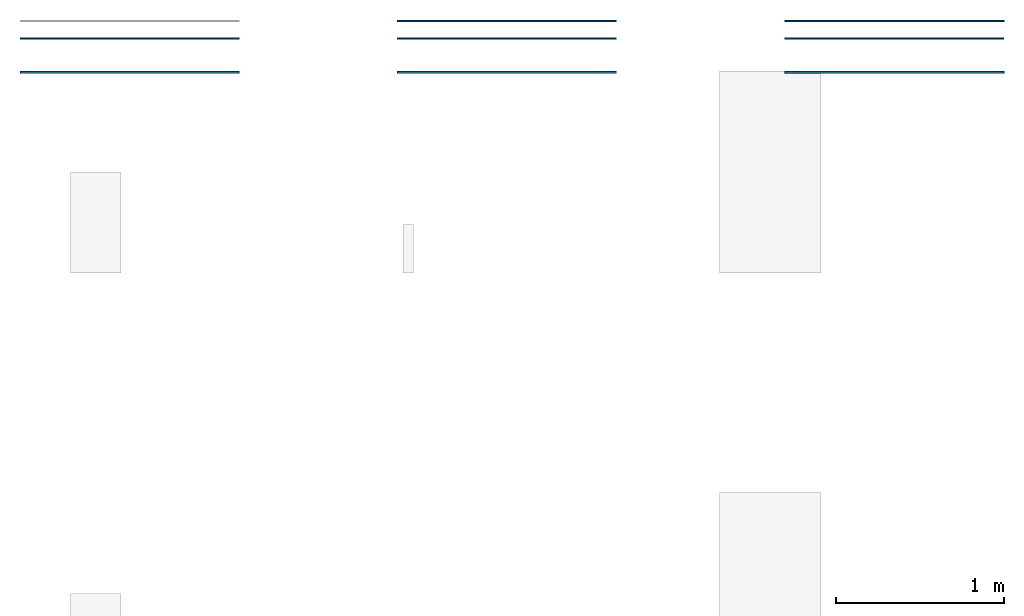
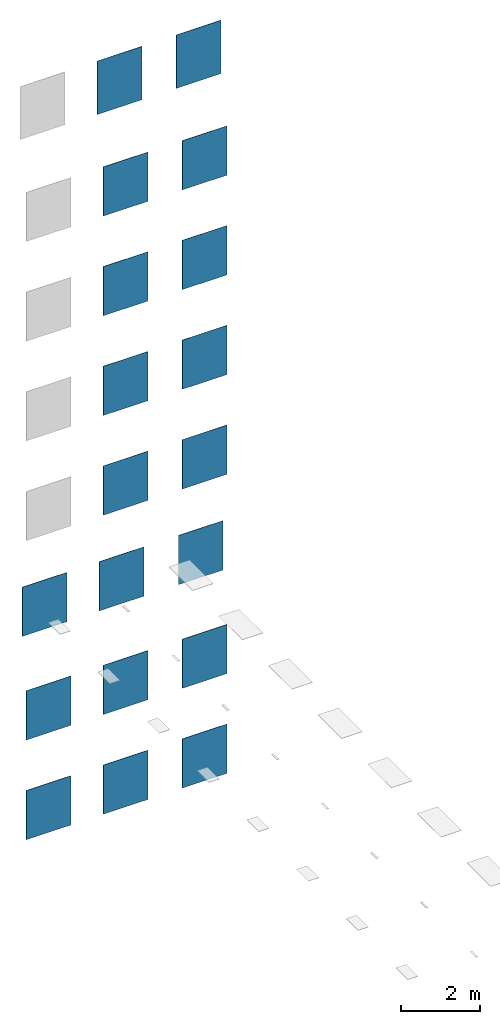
# One storey, part 2 of 2: 19 walls.
"""IFC2X3 building model written with IfcOpenShell, lengths in millimetres."""

import ifcopenshell
import ifcopenshell.guid

model = None  # the IFC model being written
_history = None  # IfcOwnerHistory: only IFC2X3 demands one
_inside = {}  # id of a spatial element -> (the spatial element, [elements in it])
_under = {}  # id of a project, library or spatial element -> (it, [spatial elements below it])
_declared = {}  # id of a project -> (the project, [libraries it declares])
_typed = {}  # id of a type object -> (the type object, [elements of that type])
_made_of = {}  # id of a material, layer set ... -> (it, [elements and type objects made of it])


def new_model(schema):
    """Start an empty IFC model of exactly this schema.

    Asked for "IFC4X3", IfcOpenShell would pick the latest addendum, in which some entities
    have other attributes; the version numbers below select the first issue.
    IFC2X3 requires an IfcOwnerHistory on every rooted entity: one is made here for all.
    """
    global model, _history
    if schema == "IFC4X3":
        model = ifcopenshell.file(schema_version=(4, 3, 0, 0))
    else:
        model = ifcopenshell.file(schema=schema)
    _inside.clear()
    _under.clear()
    _declared.clear()
    _typed.clear()
    _made_of.clear()
    _history = None
    if model.schema == "IFC2X3":
        org = make("IfcOrganization", Name="unknown")
        user = make(
            "IfcPersonAndOrganization",
            ThePerson=make("IfcPerson", FamilyName="unknown"),
            TheOrganization=org,
        )
        app = make(
            "IfcApplication",
            ApplicationDeveloper=org,
            Version="unknown",
            ApplicationFullName="unknown",
            ApplicationIdentifier="unknown",
        )
        _history = make(
            "IfcOwnerHistory",
            OwningUser=user,
            OwningApplication=app,
            ChangeAction="ADDED",
            CreationDate=0,
        )
    return model


def make(cls, **values):
    """One entity of the class cls with the attributes given. An attribute that is None is left unset."""
    return model.create_entity(
        cls, **{name: value for name, value in values.items() if value is not None}
    )


def entity(cls, *values):
    """Any entity or typed value of the class cls, its attributes in the order of the schema. None: left unset."""
    e = model.create_entity(cls)
    for i, value in enumerate(values):
        if value is not None:
            e[i] = value
    return e


def rooted(cls, **values):
    """An entity with a GlobalId (a new one), such as an element, a storey or a relation."""
    return make(cls, GlobalId=ifcopenshell.guid.new(), OwnerHistory=_history, **values)


def si_unit(unit_type, name, prefix=None):
    """IfcSIUnit, for example si_unit("LENGTHUNIT", "METRE", prefix="MILLI")."""
    return make("IfcSIUnit", UnitType=unit_type, Prefix=prefix, Name=name)


def converted_unit(unit_type, name, factor, base, dimensions=None, offset=None):
    """IfcConversionBasedUnit, such as the inch: factor (a typed value) times the base unit."""
    return make(
        "IfcConversionBasedUnit"
        if offset is None
        else "IfcConversionBasedUnitWithOffset",
        ConversionOffset=offset,
        Dimensions=None
        if dimensions is None
        else entity("IfcDimensionalExponents", *dimensions),
        UnitType=unit_type,
        Name=name,
        ConversionFactor=make(
            "IfcMeasureWithUnit", ValueComponent=factor, UnitComponent=base
        ),
    )


def derived_unit(unit_type, elements):
    """IfcDerivedUnit: a product of units, each with its exponent."""
    return make(
        "IfcDerivedUnit",
        Elements=[
            make("IfcDerivedUnitElement", Unit=unit, Exponent=power)
            for unit, power in elements
        ],
        UnitType=unit_type,
    )


def assignment(units):
    """IfcUnitAssignment: the units of a project."""
    return None if units is None else make("IfcUnitAssignment", Units=units)


def point(xyz):
    """IfcCartesianPoint."""
    return None if xyz is None else make("IfcCartesianPoint", Coordinates=xyz)


def direction(xyz):
    """IfcDirection."""
    return None if xyz is None else make("IfcDirection", DirectionRatios=xyz)


def frame(location, z_axis=None, x_axis=None):
    """IfcAxis2Placement3D, a coordinate frame: its origin and axes. An axis left out is left unset."""
    return make(
        "IfcAxis2Placement3D",
        Location=point(location),
        Axis=direction(z_axis),
        RefDirection=direction(x_axis),
    )


def frame_2d(location, x_axis=None):
    """IfcAxis2Placement2D, a coordinate frame in the plane: its origin and x axis."""
    return make(
        "IfcAxis2Placement2D", Location=point(location), RefDirection=direction(x_axis)
    )


def origin():
    """The frame at (0, 0, 0) with its axes left unset."""
    return frame((0.0, 0.0, 0.0))


def place(relative_to, where):
    """IfcLocalPlacement: puts the frame where relative to a parent placement (None: the world)."""
    return make(
        "IfcLocalPlacement", PlacementRelTo=relative_to, RelativePlacement=where
    )


def context(
    kind, dimensions, precision=None, world=None, true_north=None, identifier=None
):
    """IfcGeometricRepresentationContext, for example the 3D "Model" context."""
    return make(
        "IfcGeometricRepresentationContext",
        ContextIdentifier=identifier,
        ContextType=kind,
        CoordinateSpaceDimension=dimensions,
        Precision=precision,
        WorldCoordinateSystem=world,
        TrueNorth=true_north,
    )


def subcontext(parent, identifier, kind, view, scale=None):
    """IfcGeometricRepresentationSubContext, for example "Body" below "Model"."""
    return make(
        "IfcGeometricRepresentationSubContext",
        ContextIdentifier=identifier,
        ContextType=kind,
        ParentContext=parent,
        TargetScale=scale,
        TargetView=view,
    )


def project(units=None, contexts=None):
    """IfcProject with its units and contexts."""
    return rooted(
        "IfcProject",
        Name="project",
        RepresentationContexts=contexts,
        UnitsInContext=assignment(units),
    )


def spatial(cls, under=None, at=None, **own):
    """A site, building, storey or space (cls), placed at a placement, below another one or the project."""
    s = rooted(cls, ObjectPlacement=at, **own)
    if under is not None:
        _under.setdefault(under.id(), (under, []))[1].append(s)
    return s


def profile(cls, at=None, kind="AREA", **sizes):
    """A parametric profile (cls). Its sizes go by their IFC names, for example OverallWidth=200.0."""
    return make(cls, ProfileType=kind, Position=at, **sizes)


def rectangle(**sizes):
    """IfcRectangleProfileDef."""
    return profile("IfcRectangleProfileDef", **sizes)


def extrude(swept, where, along, depth):
    """IfcExtrudedAreaSolid: the profile swept, set in the frame where, extruded along a direction by depth."""
    return make(
        "IfcExtrudedAreaSolid",
        SweptArea=swept,
        Position=where,
        ExtrudedDirection=direction(along),
        Depth=depth,
    )


def shape(context_of_items, identifier, shape_type, items):
    """IfcShapeRepresentation: the items that make up one representation, for example the "Body"."""
    return make(
        "IfcShapeRepresentation",
        ContextOfItems=context_of_items,
        RepresentationIdentifier=identifier,
        RepresentationType=shape_type,
        Items=items,
    )


def material(Name=None, Category=None):
    """IfcMaterial."""
    return make("IfcMaterial", Name=Name, Category=Category)


def layer(
    of_material, thickness, ventilated=None, Name=None, Category=None, Priority=None
):
    """IfcMaterialLayer: one layer of a wall or slab, of a material (None: an air gap)."""
    return make(
        "IfcMaterialLayer",
        Material=of_material,
        LayerThickness=thickness,
        IsVentilated=ventilated,
        Name=Name,
        Category=Category,
        Priority=Priority,
    )


def layer_set(layers, Name=None):
    """IfcMaterialLayerSet."""
    return make("IfcMaterialLayerSet", MaterialLayers=layers, LayerSetName=Name)


def layer_usage(for_layer_set, set_direction, sense, offset, extent=None):
    """IfcMaterialLayerSetUsage: how a layer set lies in its element."""
    return make(
        "IfcMaterialLayerSetUsage",
        ForLayerSet=for_layer_set,
        LayerSetDirection=set_direction,
        DirectionSense=sense,
        OffsetFromReferenceLine=offset,
        ReferenceExtent=extent,
    )


def made_of(thing, what):
    """Note that an element or type object is made of a material, layer set ...; save() writes the relation."""
    if what is not None:
        _made_of.setdefault(what.id(), (what, []))[1].append(thing)
    return thing


def type_object(cls, material=None, **own):
    """A type object (cls), such as IfcWallType, which elements share."""
    return made_of(rooted(cls, **own), material)


def element(
    cls,
    number,
    at=None,
    inside=None,
    cuts=None,
    type_object=None,
    material=None,
    context=None,
    identifier="Body",
    shape_type=None,
    held_by="IfcProductDefinitionShape",
    body=None,
    shapes=None,
    **own,
):
    """One element of the class cls, such as IfcWall. Its Tag is "e" and its number.

    at: its placement. inside: the storey or other place that contains it. cuts: it is an
    opening in that element (IfcRelVoidsElement). A single representation is given by context,
    identifier, shape_type and body (its items); several are given by shapes. held_by: the class
    of the entity that holds the representations. save() writes the other relations.
    """
    e = rooted(cls, Tag="e%d" % number, ObjectPlacement=at, **own)
    if body is not None:
        shapes = [shape(context, identifier, shape_type, body)]
    if shapes is not None:
        e.Representation = make(held_by, Representations=shapes)
    if inside is not None:
        _inside.setdefault(inside.id(), (inside, []))[1].append(e)
    if cuts is not None:
        rooted(
            "IfcRelVoidsElement", RelatingBuildingElement=cuts, RelatedOpeningElement=e
        )
    if type_object is not None:
        _typed.setdefault(type_object.id(), (type_object, []))[1].append(e)
    return made_of(e, material)


def aggregate(whole, parts):
    """IfcRelAggregates: a whole, such as a stair, and the parts it consists of."""
    return rooted("IfcRelAggregates", RelatingObject=whole, RelatedObjects=parts)


def save(model, path):
    """Write the relations noted so far, then the file.

    IfcRelAggregates (storeys below a building ...), IfcRelContainedInSpatialStructure (elements
    in a storey), IfcRelDefinesByType, IfcRelAssociatesMaterial and IfcRelDeclares: one each for
    every whole, place, type object, material and project.
    """
    for whole, parts in _under.values():
        aggregate(whole, parts)
    for where, things in _inside.values():
        rooted(
            "IfcRelContainedInSpatialStructure",
            RelatedElements=things,
            RelatingStructure=where,
        )
    for kind, things in _typed.values():
        rooted("IfcRelDefinesByType", RelatedObjects=things, RelatingType=kind)
    for what, things in _made_of.values():
        rooted("IfcRelAssociatesMaterial", RelatedObjects=things, RelatingMaterial=what)
    for by, libraries in _declared.values():
        rooted("IfcRelDeclares", RelatingContext=by, RelatedDefinitions=libraries)
    model.write(path)


model = new_model("IFC2X3")

# Units and contexts
model_context = context("Model", 3, precision=0.01, world=origin(), true_north=direction((6.123031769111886e-17, 1.0)))
body_context = subcontext(model_context, "Body", "Model", "MODEL_VIEW")
ifc_project = project(units=[si_unit("LENGTHUNIT", "METRE", prefix="MILLI"), si_unit("AREAUNIT", "SQUARE_METRE"), si_unit("VOLUMEUNIT", "CUBIC_METRE"), converted_unit("PLANEANGLEUNIT", "DEGREE", entity("IfcPlaneAngleMeasure", 0.017453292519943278), si_unit("PLANEANGLEUNIT", "RADIAN"), dimensions=[0, 0, 0, 0, 0, 0, 0]), si_unit("MASSUNIT", "GRAM", prefix="KILO"), derived_unit("MASSDENSITYUNIT", [(si_unit("MASSUNIT", "GRAM", prefix="KILO"), 1), (si_unit("LENGTHUNIT", "METRE"), -3)]), derived_unit("IONCONCENTRATIONUNIT", [(si_unit("MASSUNIT", "GRAM", prefix="KILO"), 1), (si_unit("LENGTHUNIT", "METRE"), -3)]), derived_unit("MOMENTOFINERTIAUNIT", [(si_unit("LENGTHUNIT", "METRE"), 4)]), si_unit("TIMEUNIT", "SECOND"), si_unit("FREQUENCYUNIT", "HERTZ"), si_unit("THERMODYNAMICTEMPERATUREUNIT", "DEGREE_CELSIUS"), derived_unit("THERMALTRANSMITTANCEUNIT", [(si_unit("MASSUNIT", "GRAM", prefix="KILO"), 1), (si_unit("THERMODYNAMICTEMPERATUREUNIT", "KELVIN"), -1), (si_unit("TIMEUNIT", "SECOND"), -3)]), derived_unit("THERMALCONDUCTANCEUNIT", [(si_unit("MASSUNIT", "GRAM", prefix="KILO"), 1), (si_unit("THERMODYNAMICTEMPERATUREUNIT", "KELVIN"), -1), (si_unit("TIMEUNIT", "SECOND"), -3), (si_unit("LENGTHUNIT", "METRE"), 1)]), derived_unit("VOLUMETRICFLOWRATEUNIT", [(si_unit("LENGTHUNIT", "METRE", prefix="DECI"), 3), (si_unit("TIMEUNIT", "SECOND"), -1)]), derived_unit("MASSFLOWRATEUNIT", [(si_unit("MASSUNIT", "GRAM", prefix="KILO"), 1), (si_unit("TIMEUNIT", "SECOND"), -1)]), derived_unit("ROTATIONALFREQUENCYUNIT", [(si_unit("TIMEUNIT", "SECOND"), -1)]), si_unit("ELECTRICCURRENTUNIT", "AMPERE"), si_unit("ELECTRICVOLTAGEUNIT", "VOLT"), si_unit("POWERUNIT", "WATT"), si_unit("FORCEUNIT", "NEWTON", prefix="KILO"), si_unit("ILLUMINANCEUNIT", "LUX"), si_unit("LUMINOUSFLUXUNIT", "LUMEN"), si_unit("LUMINOUSINTENSITYUNIT", "CANDELA"), si_unit("ENERGYUNIT", "JOULE"), derived_unit("USERDEFINED", [(si_unit("MASSUNIT", "GRAM", prefix="KILO"), -1), (si_unit("LENGTHUNIT", "METRE"), -2), (si_unit("TIMEUNIT", "SECOND"), 3), (si_unit("LUMINOUSFLUXUNIT", "LUMEN"), 1)]), derived_unit("USERDEFINED", [(si_unit("MASSUNIT", "GRAM", prefix="KILO"), 1), (si_unit("TIMEUNIT", "SECOND"), -3), (si_unit("LENGTHUNIT", "METRE"), 3), (si_unit("ELECTRICCURRENTUNIT", "AMPERE"), -2)]), derived_unit("SOUNDPOWERUNIT", [(si_unit("MASSUNIT", "GRAM", prefix="KILO"), 1), (si_unit("TIMEUNIT", "SECOND"), -3), (si_unit("LENGTHUNIT", "METRE"), 2)]), derived_unit("SOUNDPRESSUREUNIT", [(si_unit("MASSUNIT", "GRAM", prefix="KILO"), 1), (si_unit("LENGTHUNIT", "METRE"), -1), (si_unit("TIMEUNIT", "SECOND"), -2)]), derived_unit("LINEARVELOCITYUNIT", [(si_unit("LENGTHUNIT", "METRE"), 1), (si_unit("TIMEUNIT", "SECOND"), -1)]), si_unit("PRESSUREUNIT", "PASCAL"), derived_unit("USERDEFINED", [(si_unit("MASSUNIT", "GRAM", prefix="KILO"), 1), (si_unit("LENGTHUNIT", "METRE"), -2), (si_unit("TIMEUNIT", "SECOND"), -2)]), derived_unit("LINEARFORCEUNIT", [(si_unit("MASSUNIT", "GRAM", prefix="KILO"), 1), (si_unit("TIMEUNIT", "SECOND"), -2)]), derived_unit("PLANARFORCEUNIT", [(si_unit("MASSUNIT", "GRAM", prefix="KILO"), 1), (si_unit("LENGTHUNIT", "METRE"), -1), (si_unit("TIMEUNIT", "SECOND"), -2)]), derived_unit("SPECIFICHEATCAPACITYUNIT", [(si_unit("THERMODYNAMICTEMPERATUREUNIT", "KELVIN"), -1), (si_unit("LENGTHUNIT", "METRE"), 2), (si_unit("TIMEUNIT", "SECOND"), -2)]), derived_unit("HEATFLUXDENSITYUNIT", [(si_unit("MASSUNIT", "GRAM", prefix="KILO"), 1), (si_unit("TIMEUNIT", "SECOND"), -3)]), derived_unit("HEATINGVALUEUNIT", [(si_unit("LENGTHUNIT", "METRE"), 2), (si_unit("TIMEUNIT", "SECOND"), -2)]), derived_unit("VAPORPERMEABILITYUNIT", [(si_unit("LENGTHUNIT", "METRE"), -1), (si_unit("TIMEUNIT", "SECOND"), 1)]), derived_unit("DYNAMICVISCOSITYUNIT", [(si_unit("MASSUNIT", "GRAM", prefix="KILO"), 1), (si_unit("TIMEUNIT", "SECOND"), -1), (si_unit("LENGTHUNIT", "METRE"), -1)]), derived_unit("THERMALEXPANSIONCOEFFICIENTUNIT", [(si_unit("THERMODYNAMICTEMPERATUREUNIT", "KELVIN"), -1)]), derived_unit("MODULUSOFELASTICITYUNIT", [(si_unit("MASSUNIT", "GRAM", prefix="KILO"), 1), (si_unit("LENGTHUNIT", "METRE"), -1), (si_unit("TIMEUNIT", "SECOND"), -2)]), derived_unit("ISOTHERMALMOISTURECAPACITYUNIT", [(si_unit("MASSUNIT", "GRAM", prefix="KILO"), -1), (si_unit("LENGTHUNIT", "METRE"), 3)]), derived_unit("MOISTUREDIFFUSIVITYUNIT", [(si_unit("TIMEUNIT", "SECOND"), -1), (si_unit("LENGTHUNIT", "METRE"), 2)]), derived_unit("MASSPERLENGTHUNIT", [(si_unit("MASSUNIT", "GRAM", prefix="KILO"), 1), (si_unit("LENGTHUNIT", "METRE"), -1)]), derived_unit("THERMALRESISTANCEUNIT", [(si_unit("MASSUNIT", "GRAM", prefix="KILO"), -1), (si_unit("TIMEUNIT", "SECOND"), 3), (si_unit("THERMODYNAMICTEMPERATUREUNIT", "KELVIN"), 1)]), derived_unit("ACCELERATIONUNIT", [(si_unit("LENGTHUNIT", "METRE"), 1), (si_unit("TIMEUNIT", "SECOND"), -2)]), derived_unit("ANGULARVELOCITYUNIT", [(si_unit("TIMEUNIT", "SECOND"), -1), (si_unit("PLANEANGLEUNIT", "RADIAN"), 1)]), derived_unit("LINEARSTIFFNESSUNIT", [(si_unit("MASSUNIT", "GRAM", prefix="KILO"), 1), (si_unit("TIMEUNIT", "SECOND"), -2)]), derived_unit("WARPINGCONSTANTUNIT", [(si_unit("LENGTHUNIT", "METRE"), 6)]), derived_unit("LINEARMOMENTUNIT", [(si_unit("MASSUNIT", "GRAM", prefix="KILO"), 1), (si_unit("LENGTHUNIT", "METRE"), 1), (si_unit("TIMEUNIT", "SECOND"), -2)]), derived_unit("TORQUEUNIT", [(si_unit("MASSUNIT", "GRAM", prefix="KILO"), 1), (si_unit("LENGTHUNIT", "METRE"), 2), (si_unit("TIMEUNIT", "SECOND"), -2)])], contexts=[model_context])

# Site, building, storey
site_placement = place(None, origin())
site = spatial("IfcSite", under=ifc_project, at=site_placement, Name="Default", CompositionType="ELEMENT")
building_placement = place(site_placement, origin())
building = spatial("IfcBuilding", under=site, at=building_placement, CompositionType="ELEMENT")
storey_placement = place(building_placement, origin())
storey = spatial("IfcBuildingStorey", under=building, at=storey_placement, Name="Level 0", CompositionType="ELEMENT", Elevation=0.0)

# Walls
ifc_material_1 = material(Name="<Unnamed>")
ifc_layer_1 = layer(ifc_material_1, 1.0)
ifc_material_2 = material(Name="Upside-Black-6,3x29 RK41")
ifc_layer_2 = layer(ifc_material_2, 9.0)
ifc_layer_set_1 = layer_set([ifc_layer_1, ifc_layer_2], Name="Basic Wall:Wall_Tiles_Refin-Upside-Black-6,3x29 RK41")
ifc_layer_usage_1 = layer_usage(ifc_layer_set_1, "AXIS2", "NEGATIVE", 5.000000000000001)
wall_type_1 = type_object("IfcWallType", Name="Basic Wall:Wall_Tiles_Refin-Upside-Black-6,3x29 RK41", PredefinedType="STANDARD", material=ifc_layer_set_1)
wall_1_placement = place(storey_placement, frame((8614.375206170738, 8137.38386313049, 14387.677044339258)))
element("IfcWallStandardCase", 1, at=wall_1_placement, inside=storey, type_object=wall_type_1, material=ifc_layer_usage_1, Name="Basic Wall:Wall_Tiles_Refin-Upside-Black-6,3x29 RK41", ObjectType="Basic Wall:Wall_Tiles_Refin-Upside-Black-6,3x29 RK41", context=body_context, shape_type="SweptSolid", body=[
    extrude(rectangle(XDim=1300.0, YDim=9.999999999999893, at=frame_2d((650.0, 7.638334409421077e-14), x_axis=(-1.0, 0.0))), origin(), (0.0, 0.0, 1.0), 1641.7417352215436),
])
ifc_layer_3 = layer(ifc_material_1, 1.0)
ifc_material_3 = material(Name="Upside-Black-60x120 RK25")
ifc_layer_4 = layer(ifc_material_3, 9.0)
ifc_layer_set_2 = layer_set([ifc_layer_3, ifc_layer_4], Name="Basic Wall:Wall_Tiles_Refin-Upside-Black-60x120 RK25")
ifc_layer_usage_2 = layer_usage(ifc_layer_set_2, "AXIS2", "NEGATIVE", 5.000000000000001)
wall_type_2 = type_object("IfcWallType", Name="Basic Wall:Wall_Tiles_Refin-Upside-Black-60x120 RK25", PredefinedType="STANDARD", material=ifc_layer_set_2)
wall_2_placement = place(storey_placement, frame((10914.37520617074, 8137.383863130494, 14387.677044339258)))
element("IfcWallStandardCase", 2, at=wall_2_placement, inside=storey, type_object=wall_type_2, material=ifc_layer_usage_2, Name="Basic Wall:Wall_Tiles_Refin-Upside-Black-60x120 RK25", ObjectType="Basic Wall:Wall_Tiles_Refin-Upside-Black-60x120 RK25", context=body_context, shape_type="SweptSolid", body=[
    extrude(rectangle(XDim=1299.999999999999, YDim=9.999999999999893, at=frame_2d((649.9999999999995, 7.638334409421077e-14), x_axis=(-1.0, 0.0))), origin(), (0.0, 0.0, 1.0), 1641.7417352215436),
])
ifc_layer_5 = layer(ifc_material_1, 1.0)
ifc_material_4 = material(Name="Upside-Blue-6,3x29 RK42")
ifc_layer_6 = layer(ifc_material_4, 9.0)
ifc_layer_set_3 = layer_set([ifc_layer_5, ifc_layer_6], Name="Basic Wall:Wall_Tiles_Refin-Upside-Blue-6,3x29 RK42")
ifc_layer_usage_3 = layer_usage(ifc_layer_set_3, "AXIS2", "NEGATIVE", 5.000000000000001)
wall_type_3 = type_object("IfcWallType", Name="Basic Wall:Wall_Tiles_Refin-Upside-Blue-6,3x29 RK42", PredefinedType="STANDARD", material=ifc_layer_set_3)
wall_3_placement = place(storey_placement, frame((8614.375206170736, 7832.383863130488, 11452.543626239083)))
element("IfcWallStandardCase", 3, at=wall_3_placement, inside=storey, type_object=wall_type_3, material=ifc_layer_usage_3, Name="Basic Wall:Wall_Tiles_Refin-Upside-Blue-6,3x29 RK42", ObjectType="Basic Wall:Wall_Tiles_Refin-Upside-Blue-6,3x29 RK42", context=body_context, shape_type="SweptSolid", body=[
    extrude(rectangle(XDim=1300.0000000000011, YDim=9.999999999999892, at=frame_2d((650.0000000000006, 0.0), x_axis=(-1.0, 0.0))), origin(), (0.0, 0.0, 1.0), 1513.1985565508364),
])
ifc_layer_7 = layer(ifc_material_1, 1.0)
ifc_material_5 = material(Name="Upside-Blue-60x120 RK26")
ifc_layer_8 = layer(ifc_material_5, 9.0)
ifc_layer_set_4 = layer_set([ifc_layer_7, ifc_layer_8], Name="Basic Wall:Wall_Tiles_Refin-Upside-Blue-60x120 RK26")
ifc_layer_usage_4 = layer_usage(ifc_layer_set_4, "AXIS2", "NEGATIVE", 5.000000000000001)
wall_type_4 = type_object("IfcWallType", Name="Basic Wall:Wall_Tiles_Refin-Upside-Blue-60x120 RK26", PredefinedType="STANDARD", material=ifc_layer_set_4)
wall_4_placement = place(storey_placement, frame((10914.375206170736, 7832.383863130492, 11452.543626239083)))
element("IfcWallStandardCase", 4, at=wall_4_placement, inside=storey, type_object=wall_type_4, material=ifc_layer_usage_4, Name="Basic Wall:Wall_Tiles_Refin-Upside-Blue-60x120 RK26", ObjectType="Basic Wall:Wall_Tiles_Refin-Upside-Blue-60x120 RK26", context=body_context, shape_type="SweptSolid", body=[
    extrude(rectangle(XDim=1299.999999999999, YDim=9.999999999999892, at=frame_2d((649.9999999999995, 0.0), x_axis=(-1.0, 0.0))), origin(), (0.0, 0.0, 1.0), 1513.1985565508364),
])
ifc_layer_9 = layer(ifc_material_1, 1.0)
ifc_material_6 = material(Name="Upside-Green-6,3x29 RK43")
ifc_layer_10 = layer(ifc_material_6, 9.0)
ifc_layer_set_5 = layer_set([ifc_layer_9, ifc_layer_10], Name="Basic Wall:Wall_Tiles_Refin-Upside-Green-6,3x29 RK43")
ifc_layer_usage_5 = layer_usage(ifc_layer_set_5, "AXIS2", "NEGATIVE", 5.000000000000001)
wall_type_5 = type_object("IfcWallType", Name="Basic Wall:Wall_Tiles_Refin-Upside-Green-6,3x29 RK43", PredefinedType="STANDARD", material=ifc_layer_set_5)
wall_5_placement = place(storey_placement, frame((8614.375206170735, 7832.38386313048, 8388.867029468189)))
element("IfcWallStandardCase", 5, at=wall_5_placement, inside=storey, type_object=wall_type_5, material=ifc_layer_usage_5, Name="Basic Wall:Wall_Tiles_Refin-Upside-Green-6,3x29 RK43", ObjectType="Basic Wall:Wall_Tiles_Refin-Upside-Green-6,3x29 RK43", context=body_context, shape_type="SweptSolid", body=[
    extrude(rectangle(XDim=1300.0000000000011, YDim=9.999999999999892, at=frame_2d((650.0000000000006, 0.0), x_axis=(-1.0, 0.0))), origin(), (0.0, 0.0, 1.0), 1513.1985565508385),
])
ifc_layer_11 = layer(ifc_material_1, 1.0)
ifc_material_7 = material(Name="Upside-Green-60x120 RK27")
ifc_layer_12 = layer(ifc_material_7, 9.0)
ifc_layer_set_6 = layer_set([ifc_layer_11, ifc_layer_12], Name="Basic Wall:Wall_Tiles_Refin-Upside-Green-60x120 RK27")
ifc_layer_usage_6 = layer_usage(ifc_layer_set_6, "AXIS2", "NEGATIVE", 5.000000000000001)
wall_type_6 = type_object("IfcWallType", Name="Basic Wall:Wall_Tiles_Refin-Upside-Green-60x120 RK27", PredefinedType="STANDARD", material=ifc_layer_set_6)
wall_6_placement = place(storey_placement, frame((10914.375206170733, 7832.383863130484, 8388.867029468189)))
element("IfcWallStandardCase", 6, at=wall_6_placement, inside=storey, type_object=wall_type_6, material=ifc_layer_usage_6, Name="Basic Wall:Wall_Tiles_Refin-Upside-Green-60x120 RK27", ObjectType="Basic Wall:Wall_Tiles_Refin-Upside-Green-60x120 RK27", context=body_context, shape_type="SweptSolid", body=[
    extrude(rectangle(XDim=1300.0000000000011, YDim=9.999999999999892, at=frame_2d((650.0000000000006, 0.0), x_axis=(-1.0, 0.0))), origin(), (0.0, 0.0, 1.0), 1513.1985565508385),
])
ifc_layer_13 = layer(ifc_material_1, 1.0)
ifc_material_8 = material(Name="Upside-Pink-6,3x29 RK45")
ifc_layer_14 = layer(ifc_material_8, 9.0)
ifc_layer_set_7 = layer_set([ifc_layer_13, ifc_layer_14], Name="Basic Wall:Wall_Tiles_Refin-Upside-Pink-6,3x29 RK45")
ifc_layer_usage_7 = layer_usage(ifc_layer_set_7, "AXIS2", "NEGATIVE", 5.000000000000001)
wall_type_7 = type_object("IfcWallType", Name="Basic Wall:Wall_Tiles_Refin-Upside-Pink-6,3x29 RK45", PredefinedType="STANDARD", material=ifc_layer_set_7)
wall_7_placement = place(storey_placement, frame((8614.375206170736, 7832.383863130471, 5325.1904326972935)))
element("IfcWallStandardCase", 7, at=wall_7_placement, inside=storey, type_object=wall_type_7, material=ifc_layer_usage_7, Name="Basic Wall:Wall_Tiles_Refin-Upside-Pink-6,3x29 RK45", ObjectType="Basic Wall:Wall_Tiles_Refin-Upside-Pink-6,3x29 RK45", context=body_context, shape_type="SweptSolid", body=[
    extrude(rectangle(XDim=1300.0000000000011, YDim=9.999999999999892, at=frame_2d((650.0000000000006, 0.0), x_axis=(-1.0, 0.0))), origin(), (0.0, 0.0, 1.0), 1513.1985565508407),
])
ifc_layer_15 = layer(ifc_material_1, 1.0)
ifc_material_9 = material(Name="Upside-Pink-60x120 RK29")
ifc_layer_16 = layer(ifc_material_9, 9.0)
ifc_layer_set_8 = layer_set([ifc_layer_15, ifc_layer_16], Name="Basic Wall:Wall_Tiles_Refin-Upside-Pink-60x120 RK29")
ifc_layer_usage_8 = layer_usage(ifc_layer_set_8, "AXIS2", "NEGATIVE", 5.000000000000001)
wall_type_8 = type_object("IfcWallType", Name="Basic Wall:Wall_Tiles_Refin-Upside-Pink-60x120 RK29", PredefinedType="STANDARD", material=ifc_layer_set_8)
wall_8_placement = place(storey_placement, frame((10914.375206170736, 7832.383863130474, 5325.1904326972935)))
element("IfcWallStandardCase", 8, at=wall_8_placement, inside=storey, type_object=wall_type_8, material=ifc_layer_usage_8, Name="Basic Wall:Wall_Tiles_Refin-Upside-Pink-60x120 RK29", ObjectType="Basic Wall:Wall_Tiles_Refin-Upside-Pink-60x120 RK29", context=body_context, shape_type="SweptSolid", body=[
    extrude(rectangle(XDim=1299.999999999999, YDim=9.999999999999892, at=frame_2d((649.9999999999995, 0.0), x_axis=(-1.0, 0.0))), origin(), (0.0, 0.0, 1.0), 1513.1985565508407),
])
ifc_layer_17 = layer(ifc_material_1, 1.0)
ifc_material_10 = material(Name="Upside-Red-6,3x29 RK46")
ifc_layer_18 = layer(ifc_material_10, 9.0)
ifc_layer_set_9 = layer_set([ifc_layer_17, ifc_layer_18], Name="Basic Wall:Wall_Tiles_Refin-Upside-Red-6,3x29 RK46")
ifc_layer_usage_9 = layer_usage(ifc_layer_set_9, "AXIS2", "NEGATIVE", 5.000000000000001)
wall_type_9 = type_object("IfcWallType", Name="Basic Wall:Wall_Tiles_Refin-Upside-Red-6,3x29 RK46", PredefinedType="STANDARD", material=ifc_layer_set_9)
wall_9_placement = place(storey_placement, frame((8614.375206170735, 7832.383863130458, 2261.5138359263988)))
element("IfcWallStandardCase", 9, at=wall_9_placement, inside=storey, type_object=wall_type_9, material=ifc_layer_usage_9, Name="Basic Wall:Wall_Tiles_Refin-Upside-Red-6,3x29 RK46", ObjectType="Basic Wall:Wall_Tiles_Refin-Upside-Red-6,3x29 RK46", context=body_context, shape_type="SweptSolid", body=[
    extrude(rectangle(XDim=1300.0000000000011, YDim=9.999999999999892, at=frame_2d((650.0000000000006, 0.0), x_axis=(-1.0, 0.0))), origin(), (0.0, 0.0, 1.0), 1513.1985565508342),
])
ifc_layer_19 = layer(ifc_material_1, 1.0)
ifc_material_11 = material(Name="Upside-Red-60x120 RK30")
ifc_layer_20 = layer(ifc_material_11, 9.0)
ifc_layer_set_10 = layer_set([ifc_layer_19, ifc_layer_20], Name="Basic Wall:Wall_Tiles_Refin-Upside-Red-60x120 RK30")
ifc_layer_usage_10 = layer_usage(ifc_layer_set_10, "AXIS2", "NEGATIVE", 5.000000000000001)
wall_type_10 = type_object("IfcWallType", Name="Basic Wall:Wall_Tiles_Refin-Upside-Red-60x120 RK30", PredefinedType="STANDARD", material=ifc_layer_set_10)
wall_10_placement = place(storey_placement, frame((10914.375206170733, 7832.3838631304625, 2261.5138359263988)))
element("IfcWallStandardCase", 10, at=wall_10_placement, inside=storey, type_object=wall_type_10, material=ifc_layer_usage_10, Name="Basic Wall:Wall_Tiles_Refin-Upside-Red-60x120 RK30", ObjectType="Basic Wall:Wall_Tiles_Refin-Upside-Red-60x120 RK30", context=body_context, shape_type="SweptSolid", body=[
    extrude(rectangle(XDim=1300.0000000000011, YDim=9.999999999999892, at=frame_2d((650.0000000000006, 0.0), x_axis=(-1.0, 0.0))), origin(), (0.0, 0.0, 1.0), 1513.1985565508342),
])
ifc_layer_21 = layer(ifc_material_1, 1.0)
ifc_material_12 = material(Name="Upside-Sky-30x60 RK39")
ifc_layer_22 = layer(ifc_material_12, 9.0)
ifc_layer_set_11 = layer_set([ifc_layer_21, ifc_layer_22], Name="Basic Wall:Wall_Tiles_Refin-Upside-Sky-30x60 RK39")
ifc_layer_usage_11 = layer_usage(ifc_layer_set_11, "AXIS2", "NEGATIVE", 5.000000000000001)
wall_type_11 = type_object("IfcWallType", Name="Basic Wall:Wall_Tiles_Refin-Upside-Sky-30x60 RK39", PredefinedType="STANDARD", material=ifc_layer_set_11)
wall_11_placement = place(storey_placement, frame((6374.375206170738, 8032.383863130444, -802.1627608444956)))
element("IfcWallStandardCase", 11, at=wall_11_placement, inside=storey, type_object=wall_type_11, material=ifc_layer_usage_11, Name="Basic Wall:Wall_Tiles_Refin-Upside-Sky-30x60 RK39", ObjectType="Basic Wall:Wall_Tiles_Refin-Upside-Sky-30x60 RK39", context=body_context, shape_type="SweptSolid", body=[
    extrude(rectangle(XDim=1300.0, YDim=9.999999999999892, at=frame_2d((650.0, 0.0), x_axis=(-1.0, 0.0))), origin(), (0.0, 0.0, 1.0), 1513.1985565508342),
])
ifc_layer_23 = layer(ifc_material_1, 1.0)
ifc_material_13 = material(Name="Upside-Sky-6,3x29 RK47")
ifc_layer_24 = layer(ifc_material_13, 9.0)
ifc_layer_set_12 = layer_set([ifc_layer_23, ifc_layer_24], Name="Basic Wall:Wall_Tiles_Refin-Upside-Sky-6,3x29 RK47")
ifc_layer_usage_12 = layer_usage(ifc_layer_set_12, "AXIS2", "NEGATIVE", 5.000000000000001)
wall_type_12 = type_object("IfcWallType", Name="Basic Wall:Wall_Tiles_Refin-Upside-Sky-6,3x29 RK47", PredefinedType="STANDARD", material=ifc_layer_set_12)
wall_12_placement = place(storey_placement, frame((8614.375206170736, 8032.383863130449, -802.1627608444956)))
element("IfcWallStandardCase", 12, at=wall_12_placement, inside=storey, type_object=wall_type_12, material=ifc_layer_usage_12, Name="Basic Wall:Wall_Tiles_Refin-Upside-Sky-6,3x29 RK47", ObjectType="Basic Wall:Wall_Tiles_Refin-Upside-Sky-6,3x29 RK47", context=body_context, shape_type="SweptSolid", body=[
    extrude(rectangle(XDim=1300.0000000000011, YDim=9.999999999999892, at=frame_2d((650.0000000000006, 0.0), x_axis=(-1.0, 0.0))), origin(), (0.0, 0.0, 1.0), 1513.1985565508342),
])
ifc_layer_25 = layer(ifc_material_1, 1.0)
ifc_material_14 = material(Name="Upside-Sky-60x120 RK31")
ifc_layer_26 = layer(ifc_material_14, 9.0)
ifc_layer_set_13 = layer_set([ifc_layer_25, ifc_layer_26], Name="Basic Wall:Wall_Tiles_Refin-Upside-Sky-60x120 RK31")
ifc_layer_usage_13 = layer_usage(ifc_layer_set_13, "AXIS2", "NEGATIVE", 5.000000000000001)
wall_type_13 = type_object("IfcWallType", Name="Basic Wall:Wall_Tiles_Refin-Upside-Sky-60x120 RK31", PredefinedType="STANDARD", material=ifc_layer_set_13)
wall_13_placement = place(storey_placement, frame((10914.375206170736, 8032.383863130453, -802.1627608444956)))
element("IfcWallStandardCase", 13, at=wall_13_placement, inside=storey, type_object=wall_type_13, material=ifc_layer_usage_13, Name="Basic Wall:Wall_Tiles_Refin-Upside-Sky-60x120 RK31", ObjectType="Basic Wall:Wall_Tiles_Refin-Upside-Sky-60x120 RK31", context=body_context, shape_type="SweptSolid", body=[
    extrude(rectangle(XDim=1299.999999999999, YDim=9.999999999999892, at=frame_2d((649.9999999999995, 0.0), x_axis=(-1.0, 0.0))), origin(), (0.0, 0.0, 1.0), 1513.1985565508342),
])
ifc_layer_27 = layer(ifc_material_1, 1.0)
ifc_material_15 = material(Name="Upside-White-30x60 RK40")
ifc_layer_28 = layer(ifc_material_15, 9.0)
ifc_layer_set_14 = layer_set([ifc_layer_27, ifc_layer_28], Name="Basic Wall:Wall_Tiles_Refin-Upside-White-30x60 RK40")
ifc_layer_usage_14 = layer_usage(ifc_layer_set_14, "AXIS2", "NEGATIVE", 5.000000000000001)
wall_type_14 = type_object("IfcWallType", Name="Basic Wall:Wall_Tiles_Refin-Upside-White-30x60 RK40", PredefinedType="STANDARD", material=ifc_layer_set_14)
wall_14_placement = place(storey_placement, frame((6374.375206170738, 7832.383863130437, -3865.83935761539)))
element("IfcWallStandardCase", 14, at=wall_14_placement, inside=storey, type_object=wall_type_14, material=ifc_layer_usage_14, Name="Basic Wall:Wall_Tiles_Refin-Upside-White-30x60 RK40", ObjectType="Basic Wall:Wall_Tiles_Refin-Upside-White-30x60 RK40", context=body_context, shape_type="SweptSolid", body=[
    extrude(rectangle(XDim=1300.0000000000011, YDim=9.999999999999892, at=frame_2d((650.0000000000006, 0.0), x_axis=(-1.0, 0.0))), origin(), (0.0, 0.0, 1.0), 1513.1985565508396),
])
ifc_layer_29 = layer(ifc_material_1, 1.0)
ifc_material_16 = material(Name="Upside-White-6,3x29 RK48")
ifc_layer_30 = layer(ifc_material_16, 9.0)
ifc_layer_set_15 = layer_set([ifc_layer_29, ifc_layer_30], Name="Basic Wall:Wall_Tiles_Refin-Upside-White-6,3x29 RK48")
ifc_layer_usage_15 = layer_usage(ifc_layer_set_15, "AXIS2", "NEGATIVE", 5.000000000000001)
wall_type_15 = type_object("IfcWallType", Name="Basic Wall:Wall_Tiles_Refin-Upside-White-6,3x29 RK48", PredefinedType="STANDARD", material=ifc_layer_set_15)
wall_15_placement = place(storey_placement, frame((8614.375206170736, 7832.383863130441, -3865.83935761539)))
element("IfcWallStandardCase", 15, at=wall_15_placement, inside=storey, type_object=wall_type_15, material=ifc_layer_usage_15, Name="Basic Wall:Wall_Tiles_Refin-Upside-White-6,3x29 RK48", ObjectType="Basic Wall:Wall_Tiles_Refin-Upside-White-6,3x29 RK48", context=body_context, shape_type="SweptSolid", body=[
    extrude(rectangle(XDim=1300.0000000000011, YDim=9.999999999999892, at=frame_2d((650.0000000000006, 0.0), x_axis=(-1.0, 0.0))), origin(), (0.0, 0.0, 1.0), 1513.1985565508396),
])
ifc_layer_31 = layer(ifc_material_1, 1.0)
ifc_material_17 = material(Name="Upside-White-60x120 RK32")
ifc_layer_32 = layer(ifc_material_17, 9.0)
ifc_layer_set_16 = layer_set([ifc_layer_31, ifc_layer_32], Name="Basic Wall:Wall_Tiles_Refin-Upside-White-60x120 RK32")
ifc_layer_usage_16 = layer_usage(ifc_layer_set_16, "AXIS2", "NEGATIVE", 5.000000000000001)
wall_type_16 = type_object("IfcWallType", Name="Basic Wall:Wall_Tiles_Refin-Upside-White-60x120 RK32", PredefinedType="STANDARD", material=ifc_layer_set_16)
wall_16_placement = place(storey_placement, frame((10914.375206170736, 7832.383863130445, -3865.83935761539)))
element("IfcWallStandardCase", 16, at=wall_16_placement, inside=storey, type_object=wall_type_16, material=ifc_layer_usage_16, Name="Basic Wall:Wall_Tiles_Refin-Upside-White-60x120 RK32", ObjectType="Basic Wall:Wall_Tiles_Refin-Upside-White-60x120 RK32", context=body_context, shape_type="SweptSolid", body=[
    extrude(rectangle(XDim=1300.0000000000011, YDim=9.999999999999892, at=frame_2d((650.0000000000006, 0.0), x_axis=(-1.0, 0.0))), origin(), (0.0, 0.0, 1.0), 1513.1985565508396),
])
ifc_layer_33 = layer(ifc_material_1, 1.0)
ifc_material_18 = material(Name="Upside-Yellow-30x60 RK36")
ifc_layer_34 = layer(ifc_material_18, 9.0)
ifc_layer_set_17 = layer_set([ifc_layer_33, ifc_layer_34], Name="Basic Wall:Wall_Tiles_Refin-Upside-Yellow-30x60 RK36")
ifc_layer_usage_17 = layer_usage(ifc_layer_set_17, "AXIS2", "NEGATIVE", 5.000000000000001)
wall_type_17 = type_object("IfcWallType", Name="Basic Wall:Wall_Tiles_Refin-Upside-Yellow-30x60 RK36", PredefinedType="STANDARD", material=ifc_layer_set_17)
wall_17_placement = place(storey_placement, frame((6374.375206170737, 7832.383863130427, -6929.515954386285)))
element("IfcWallStandardCase", 17, at=wall_17_placement, inside=storey, type_object=wall_type_17, material=ifc_layer_usage_17, Name="Basic Wall:Wall_Tiles_Refin-Upside-Yellow-30x60 RK36", ObjectType="Basic Wall:Wall_Tiles_Refin-Upside-Yellow-30x60 RK36", context=body_context, shape_type="SweptSolid", body=[
    extrude(rectangle(XDim=1300.0000000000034, YDim=9.999999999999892, at=frame_2d((650.0000000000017, 0.0), x_axis=(-1.0, 0.0))), origin(), (0.0, 0.0, 1.0), 1513.1985565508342),
])
ifc_layer_35 = layer(ifc_material_1, 1.0)
ifc_material_19 = material(Name="Upside-Yellow-6,3x29 RK44")
ifc_layer_36 = layer(ifc_material_19, 9.0)
ifc_layer_set_18 = layer_set([ifc_layer_35, ifc_layer_36], Name="Basic Wall:Wall_Tiles_Refin-Upside-Yellow-6,3x29 RK44")
ifc_layer_usage_18 = layer_usage(ifc_layer_set_18, "AXIS2", "NEGATIVE", 5.000000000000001)
wall_type_18 = type_object("IfcWallType", Name="Basic Wall:Wall_Tiles_Refin-Upside-Yellow-6,3x29 RK44", PredefinedType="STANDARD", material=ifc_layer_set_18)
wall_18_placement = place(storey_placement, frame((8614.375206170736, 7832.383863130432, -6929.515954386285)))
element("IfcWallStandardCase", 18, at=wall_18_placement, inside=storey, type_object=wall_type_18, material=ifc_layer_usage_18, Name="Basic Wall:Wall_Tiles_Refin-Upside-Yellow-6,3x29 RK44", ObjectType="Basic Wall:Wall_Tiles_Refin-Upside-Yellow-6,3x29 RK44", context=body_context, shape_type="SweptSolid", body=[
    extrude(rectangle(XDim=1300.0000000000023, YDim=9.999999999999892, at=frame_2d((650.0000000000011, 0.0), x_axis=(-1.0, 0.0))), origin(), (0.0, 0.0, 1.0), 1513.1985565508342),
])
ifc_layer_37 = layer(ifc_material_1, 1.0)
ifc_material_20 = material(Name="Upside-Yellow-60x120 RK28")
ifc_layer_38 = layer(ifc_material_20, 9.0)
ifc_layer_set_19 = layer_set([ifc_layer_37, ifc_layer_38], Name="Basic Wall:Wall_Tiles_Refin-Upside-Yellow-60x120 RK28")
ifc_layer_usage_19 = layer_usage(ifc_layer_set_19, "AXIS2", "NEGATIVE", 5.000000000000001)
wall_type_19 = type_object("IfcWallType", Name="Basic Wall:Wall_Tiles_Refin-Upside-Yellow-60x120 RK28", PredefinedType="STANDARD", material=ifc_layer_set_19)
wall_19_placement = place(storey_placement, frame((10914.375206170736, 7832.383863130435, -6929.515954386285)))
element("IfcWallStandardCase", 19, at=wall_19_placement, inside=storey, type_object=wall_type_19, material=ifc_layer_usage_19, Name="Basic Wall:Wall_Tiles_Refin-Upside-Yellow-60x120 RK28", ObjectType="Basic Wall:Wall_Tiles_Refin-Upside-Yellow-60x120 RK28", context=body_context, shape_type="SweptSolid", body=[
    extrude(rectangle(XDim=1300.0000000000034, YDim=9.999999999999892, at=frame_2d((650.0000000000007, 0.0), x_axis=(-1.0, 0.0))), origin(), (0.0, 0.0, 1.0), 1513.1985565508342),
])

save(model, "model.ifc")
